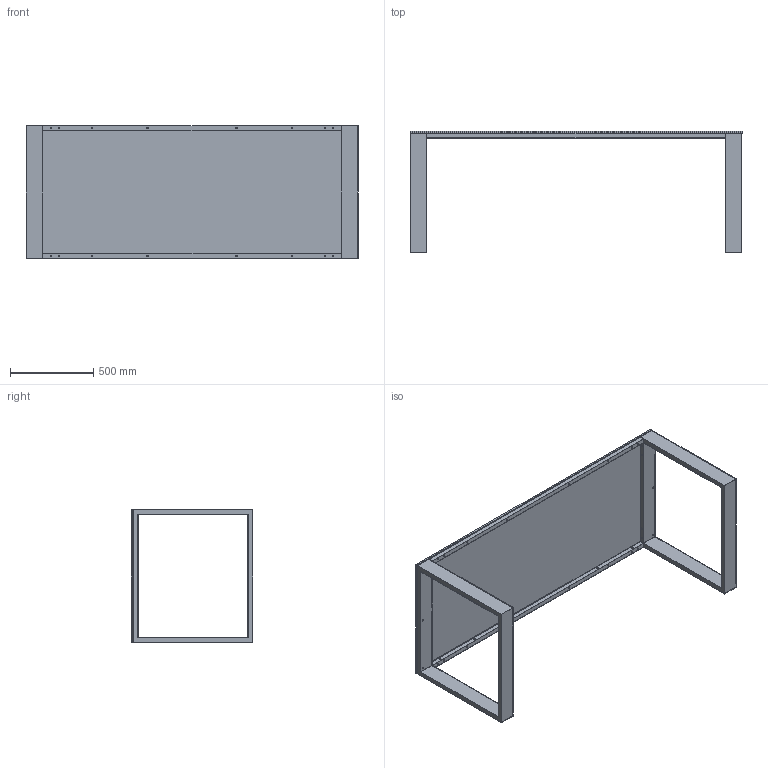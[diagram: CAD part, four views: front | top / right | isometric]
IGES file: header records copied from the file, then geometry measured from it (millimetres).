
Start section: SolidWorks IGES file using NURBS representation for surfaces
Global section: file name: G:\VICCARBE\PRODUCTOS\12-LEG-IN\04-MODELADOS (PLANOS)\SOLIDWORKS\LEG_IN 2011\ENSAMBLAJES\Mesas 3D\IGES\VICCARBE_LEB200.IGS; native system: SolidWorks 2009; preprocessor: SolidWorks 2009; author: RUBEN; date: 111024.094710; units: millimetre
Bounding box: 2000 x 732 x 800 mm (x, y, z)
Surface area: 7015799.8 mm2 (no closed solid volume)
Topology: 0 solids, 0 shells, 231 faces, 4272 edges, 4244 vertices
Faces by surface type: bspline 231
